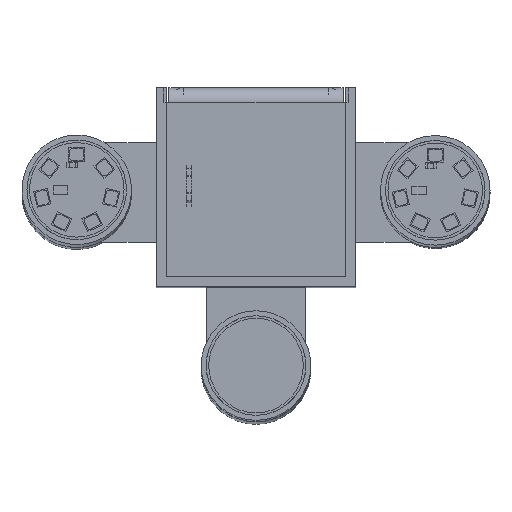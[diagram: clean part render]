
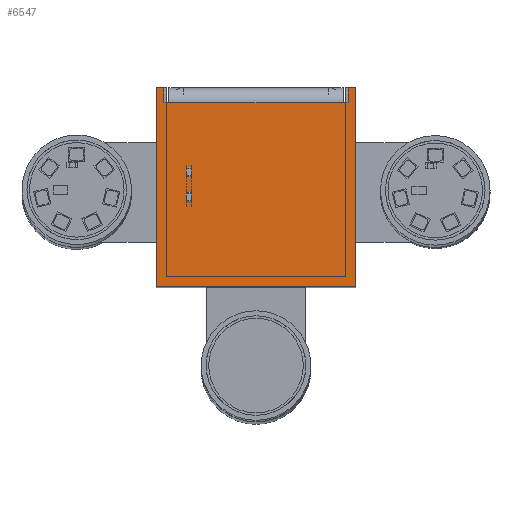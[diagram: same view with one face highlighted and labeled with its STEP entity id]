
A CAD part, top view. The second image highlights one B-rep face of the part: STEP entity #6547.
In plain terms, the highlighted planar face has unit normal (0, 0, 1).
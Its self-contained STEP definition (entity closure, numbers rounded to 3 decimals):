
#452=PLANE('',#7506);
#1047=FACE_OUTER_BOUND('',#1497,.T.);
#1497=EDGE_LOOP('',(#5293,#5294,#5295,#5296,#5297,#5298,#5299,#5300,#5301,
#5302));
#1942=LINE('',#11036,#2557);
#1947=LINE('',#11047,#2562);
#1950=LINE('',#11051,#2565);
#1953=LINE('',#11057,#2568);
#1957=LINE('',#11066,#2572);
#1960=LINE('',#11072,#2575);
#1963=LINE('',#11078,#2578);
#1965=LINE('',#11083,#2580);
#1967=LINE('',#11086,#2582);
#1970=LINE('',#11097,#2585);
#2557=VECTOR('',#8753,10.);
#2562=VECTOR('',#8760,10.);
#2565=VECTOR('',#8765,10.);
#2568=VECTOR('',#8770,10.);
#2572=VECTOR('',#8776,10.);
#2575=VECTOR('',#8781,10.);
#2578=VECTOR('',#8786,10.);
#2580=VECTOR('',#8790,10.);
#2582=VECTOR('',#8794,10.);
#2585=VECTOR('',#8813,10.);
#3231=VERTEX_POINT('',#11032);
#3233=VERTEX_POINT('',#11035);
#3237=VERTEX_POINT('',#11044);
#3238=VERTEX_POINT('',#11046);
#3240=VERTEX_POINT('',#11055);
#3241=VERTEX_POINT('',#11059);
#3244=VERTEX_POINT('',#11064);
#3246=VERTEX_POINT('',#11070);
#3248=VERTEX_POINT('',#11076);
#3250=VERTEX_POINT('',#11082);
#3956=EDGE_CURVE('',#3233,#3231,#1942,.T.);
#3961=EDGE_CURVE('',#3238,#3237,#1947,.T.);
#3964=EDGE_CURVE('',#3237,#3233,#1950,.T.);
#3967=EDGE_CURVE('',#3231,#3240,#1953,.T.);
#3971=EDGE_CURVE('',#3241,#3244,#1957,.T.);
#3974=EDGE_CURVE('',#3244,#3246,#1960,.T.);
#3977=EDGE_CURVE('',#3246,#3248,#1963,.T.);
#3979=EDGE_CURVE('',#3250,#3241,#1965,.T.);
#3981=EDGE_CURVE('',#3240,#3250,#1967,.T.);
#3988=EDGE_CURVE('',#3248,#3238,#1970,.T.);
#5293=ORIENTED_EDGE('',*,*,#3981,.T.);
#5294=ORIENTED_EDGE('',*,*,#3979,.T.);
#5295=ORIENTED_EDGE('',*,*,#3971,.T.);
#5296=ORIENTED_EDGE('',*,*,#3974,.T.);
#5297=ORIENTED_EDGE('',*,*,#3977,.T.);
#5298=ORIENTED_EDGE('',*,*,#3988,.T.);
#5299=ORIENTED_EDGE('',*,*,#3961,.T.);
#5300=ORIENTED_EDGE('',*,*,#3964,.T.);
#5301=ORIENTED_EDGE('',*,*,#3956,.T.);
#5302=ORIENTED_EDGE('',*,*,#3967,.T.);
#6547=ADVANCED_FACE('',(#1047),#452,.T.);
#7506=AXIS2_PLACEMENT_3D('',#11098,#8814,#8815);
#8753=DIRECTION('',(0.,-1.,0.));
#8760=DIRECTION('',(0.,1.,0.));
#8765=DIRECTION('',(-1.,0.,0.));
#8770=DIRECTION('',(-1.,0.,0.));
#8776=DIRECTION('',(0.,1.,0.));
#8781=DIRECTION('',(-1.,0.,0.));
#8786=DIRECTION('',(0.,-1.,0.));
#8790=DIRECTION('',(-1.,0.,0.));
#8794=DIRECTION('',(-1.,0.,0.));
#8813=DIRECTION('',(1.,0.,0.));
#8814=DIRECTION('center_axis',(0.,0.,
1.));
#8815=DIRECTION('ref_axis',(0.,-1.,0.));
#11032=CARTESIAN_POINT('',(18.5,-1.5,62.5));
#11035=CARTESIAN_POINT('',(18.5,1.5,62.5));
#11036=CARTESIAN_POINT('',(18.5,1.5,62.5));
#11044=CARTESIAN_POINT('',(20.,1.5,62.5));
#11046=CARTESIAN_POINT('',(20.,-38.5,62.5));
#11047=CARTESIAN_POINT('',(20.,-38.5,62.5));
#11051=CARTESIAN_POINT('',(20.,1.5,62.5));
#11055=CARTESIAN_POINT('',(17.5,-1.5,62.5));
#11057=CARTESIAN_POINT('',(18.5,-1.5,62.5));
#11059=CARTESIAN_POINT('',(-18.5,-1.5,62.5));
#11064=CARTESIAN_POINT('',(-18.5,1.5,62.5));
#11066=CARTESIAN_POINT('',(-18.5,-38.5,62.5));
#11070=CARTESIAN_POINT('',(-20.,1.5,62.5));
#11072=CARTESIAN_POINT('',(-18.5,1.5,62.5));
#11076=CARTESIAN_POINT('',(-20.,-38.5,62.5));
#11078=CARTESIAN_POINT('',(-20.,1.5,62.5));
#11082=CARTESIAN_POINT('',(-17.5,-1.5,62.5));
#11083=CARTESIAN_POINT('',(-17.5,-1.5,62.5));
#11086=CARTESIAN_POINT('',(0.,-1.5,62.5));
#11097=CARTESIAN_POINT('',(17.5,-38.5,62.5));
#11098=CARTESIAN_POINT('Origin',(0.,-18.304,
62.5));
